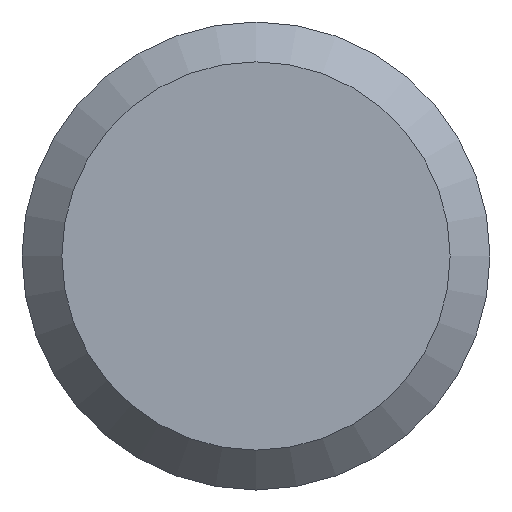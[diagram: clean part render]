
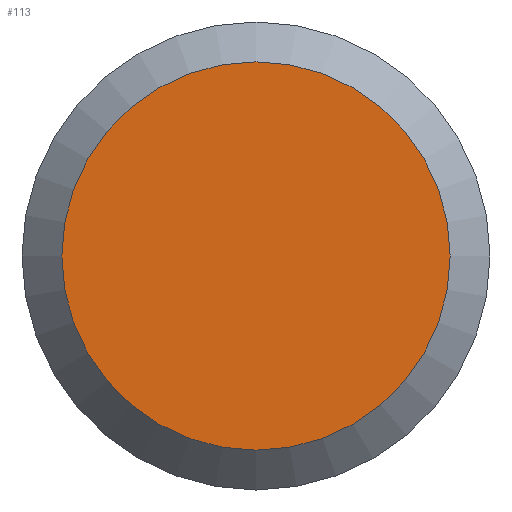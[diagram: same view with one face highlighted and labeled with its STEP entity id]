
A CAD part, left-side view. The second image highlights one B-rep face of the part: STEP entity #113.
In plain terms, the highlighted planar face has unit normal (-1, 0, 0).
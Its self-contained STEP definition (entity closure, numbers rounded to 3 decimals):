
#97=CARTESIAN_POINT('',(3.5,0.,0.));
#98=DIRECTION('',(1.,0.,0.));
#99=DIRECTION('',(0.,1.,0.));
#100=AXIS2_PLACEMENT_3D('',#97,#98,#99);
#101=PLANE('',#100);
#102=CARTESIAN_POINT('',(3.5,194.626,-29.946));
#103=VERTEX_POINT('',#102);
#104=CARTESIAN_POINT('',(3.5,194.626,-27.996));
#105=DIRECTION('',(-1.,-0.,-0.));
#106=DIRECTION('',(0.,0.,-1.));
#107=AXIS2_PLACEMENT_3D('',#104,#105,#106);
#108=CIRCLE('',#107,1.95);
#109=EDGE_CURVE('',#103,#103,#108,.T.);
#110=ORIENTED_EDGE('',*,*,#109,.T.);
#111=EDGE_LOOP('',(#110));
#112=FACE_BOUND('',#111,.T.);
#113=ADVANCED_FACE('',(#112),#101,.F.);
